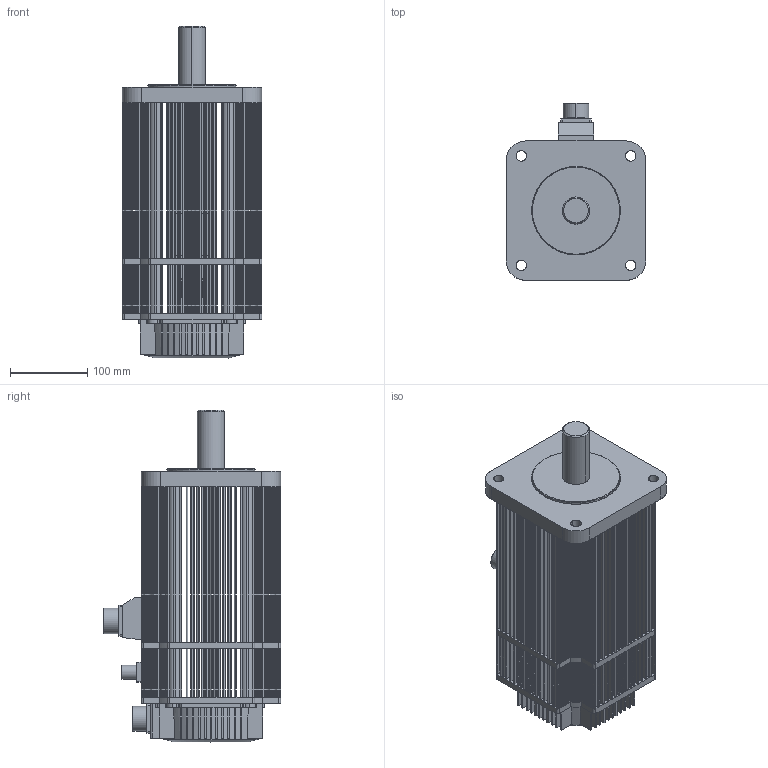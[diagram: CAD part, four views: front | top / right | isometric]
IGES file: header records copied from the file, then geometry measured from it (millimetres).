
Start section: SolidWorks IGES file using analytic representation for surfaces
Global section: file name: H:\estun\zhangjian\电机外观文件（solidworks2009 零件 文件）\IGS\EMG-50A_with holding brake.IGS; native system: SolidWorks 2009; preprocessor: SolidWorks 2009; author: Administrator; date: 100804.094941; units: millimetre
Bounding box: 180 x 229 x 429 mm (x, y, z)
Surface area: 532868.2 mm2 (no closed solid volume)
Topology: 0 solids, 0 shells, 1969 faces, 19774 edges, 19774 vertices
Faces by surface type: bspline 1096, revolution 873
